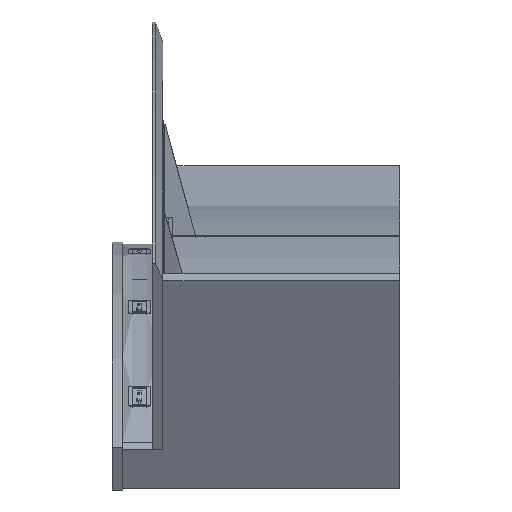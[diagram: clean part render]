
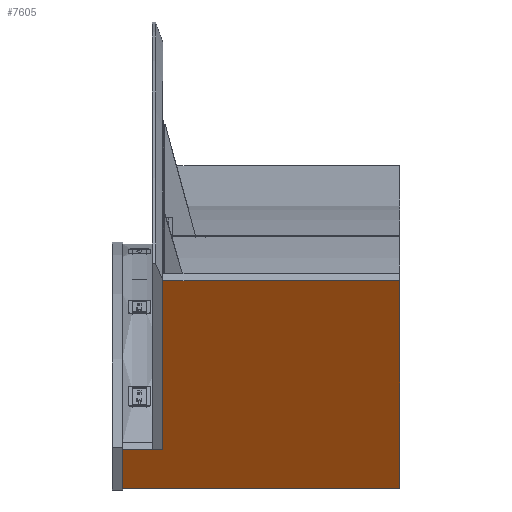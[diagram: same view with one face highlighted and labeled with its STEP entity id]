
A CAD part, left-side view. The second image highlights one B-rep face of the part: STEP entity #7605.
In plain terms, the highlighted planar face has unit normal (-0.838, 0, -0.545) as drawn and (0.838, 0, 0.545) by its records, which use the part's own axes.
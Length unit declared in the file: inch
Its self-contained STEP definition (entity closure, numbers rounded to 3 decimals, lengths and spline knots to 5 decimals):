
#1856=FACE_OUTER_BOUND('',#2203,.T.);
#2203=EDGE_LOOP('',(#5169,#5170,#5171,#5172,#5173,#5174));
#2612=LINE('',#12470,#3172);
#2615=LINE('',#12478,#3175);
#2619=LINE('',#12487,#3179);
#2623=LINE('',#12496,#3183);
#2627=LINE('',#12505,#3187);
#2628=LINE('',#12507,#3188);
#3172=VECTOR('',#9791,0.3937);
#3175=VECTOR('',#9798,0.3937);
#3179=VECTOR('',#9806,0.3937);
#3183=VECTOR('',#9814,0.3937);
#3187=VECTOR('',#9824,0.3937);
#3188=VECTOR('',#9827,0.3937);
#3732=VERTEX_POINT('',#12466);
#3734=VERTEX_POINT('',#12469);
#3737=VERTEX_POINT('',#12477);
#3740=VERTEX_POINT('',#12485);
#3743=VERTEX_POINT('',#12495);
#3745=VERTEX_POINT('',#12503);
#4293=EDGE_CURVE('',#3734,#3732,#2612,.T.);
#4297=EDGE_CURVE('',#3737,#3734,#2615,.T.);
#4302=EDGE_CURVE('',#3732,#3740,#2619,.T.);
#4306=EDGE_CURVE('',#3737,#3743,#2623,.T.);
#4311=EDGE_CURVE('',#3740,#3745,#2627,.T.);
#4312=EDGE_CURVE('',#3743,#3745,#2628,.T.);
#5169=ORIENTED_EDGE('',*,*,#4293,.T.);
#5170=ORIENTED_EDGE('',*,*,#4302,.T.);
#5171=ORIENTED_EDGE('',*,*,#4311,.T.);
#5172=ORIENTED_EDGE('',*,*,#4312,.F.);
#5173=ORIENTED_EDGE('',*,*,#4306,.F.);
#5174=ORIENTED_EDGE('',*,*,#4297,.T.);
#6791=PLANE('',#8704);
#7605=ADVANCED_FACE('',(#1856),#6791,.T.);
#8704=AXIS2_PLACEMENT_3D('',#12506,#9825,#9826);
#9791=DIRECTION('',(0.,1.,0.));
#9798=DIRECTION('',(-0.545,0.,0.838));
#9806=DIRECTION('',(-0.545,0.,0.838));
#9814=DIRECTION('',(0.,-1.,0.));
#9824=DIRECTION('',(0.,-1.,0.));
#9825=DIRECTION('center_axis',(0.838,0.,0.545));
#9826=DIRECTION('ref_axis',(-0.545,0.,0.838));
#9827=DIRECTION('',(-0.545,0.,0.838));
#12466=CARTESIAN_POINT('',(177.68182,0.,22.00119));
#12469=CARTESIAN_POINT('',(177.68182,-4.75,22.00119));
#12470=CARTESIAN_POINT('',(177.68182,0.,22.00119));
#12477=CARTESIAN_POINT('',(190.63636,-4.75,2.09535));
#12478=CARTESIAN_POINT('',(187.39742,-4.75,7.07228));
#12485=CARTESIAN_POINT('',(174.68182,0.,26.61096));
#12487=CARTESIAN_POINT('',(190.63636,0.,2.09535));
#12495=CARTESIAN_POINT('',(190.63636,-32.75,2.09535));
#12496=CARTESIAN_POINT('',(190.63636,0.,2.09535));
#12503=CARTESIAN_POINT('',(174.68182,-32.75,26.61096));
#12505=CARTESIAN_POINT('',(174.68182,0.,26.61096));
#12506=CARTESIAN_POINT('Origin',(190.63636,0.,2.09535));
#12507=CARTESIAN_POINT('',(190.63636,-32.75,2.09535));
